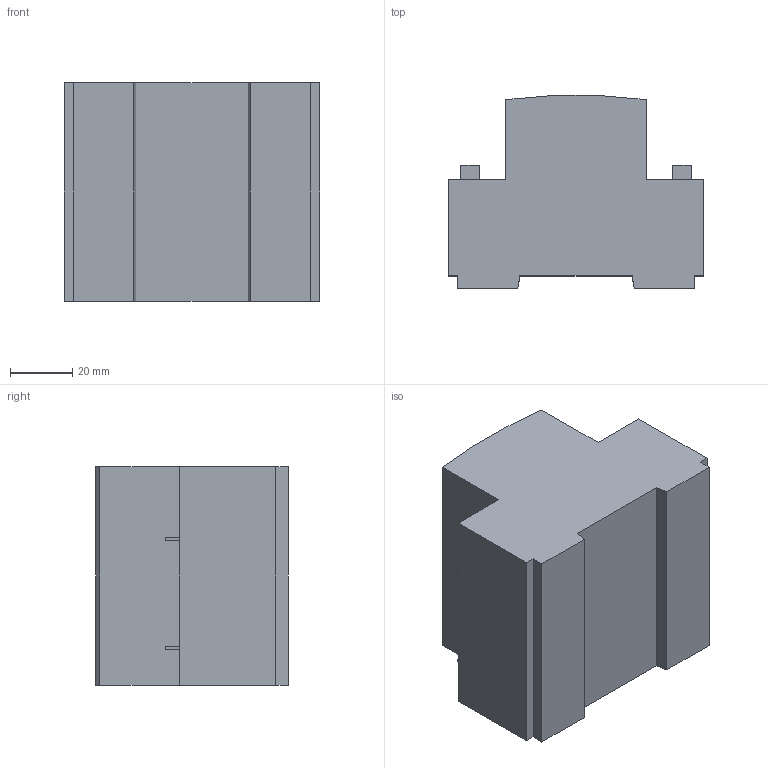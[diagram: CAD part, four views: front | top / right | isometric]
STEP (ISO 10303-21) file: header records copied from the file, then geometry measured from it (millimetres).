
FILE_DESCRIPTION(/* description */ (''),/* implementation_level */ '2;1');
FILE_NAME(/* name */ 'D:/Docs/WWW/SB_STEP_ALE3.step',/* time_stamp */ '2017-06-23T09:42:47+02:00',/* author */ (''),/* organization */ (''),/* preprocessor_version */ 'ST-DEVELOPER v16.13',/* originating_system */ 'Autodesk Translation Framework v6.1.1.50',/* authorisation */ '');
FILE_SCHEMA (('AUTOMOTIVE_DESIGN { 1 0 10303 214 3 1 1 }'));
Length unit declared in the file: millimetre
Products named in the file (1): HON_SAT_EEM400
Bounding box: 82 x 61.83 x 70 mm (x, y, z)
Volume: 272533 mm3; surface area: 28465.4 mm2
Topology: 1 solids, 1 shells, 38 faces, 96 edges, 64 vertices
Faces by surface type: plane 37, cylinder 1
Entity records: 1144 total; most frequent: CARTESIAN_POINT 199, ORIENTED_EDGE 192, DIRECTION 176, EDGE_CURVE 96, LINE 94, VECTOR 94, VERTEX_POINT 64, EDGE_LOOP 42
